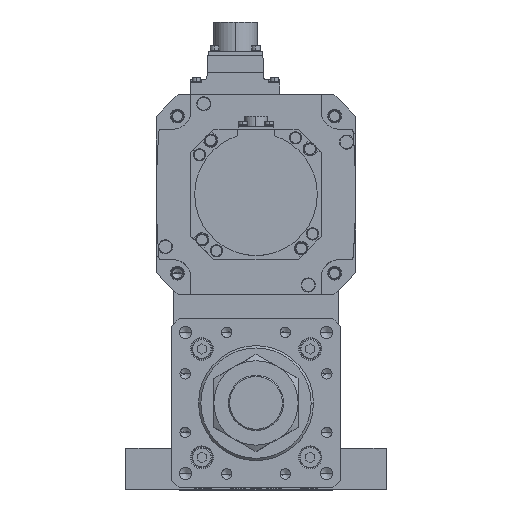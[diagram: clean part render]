
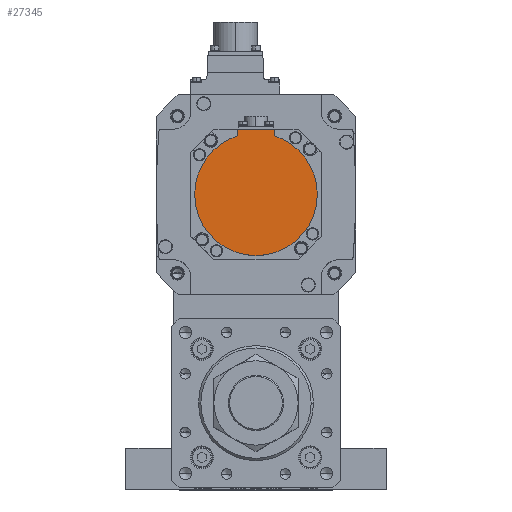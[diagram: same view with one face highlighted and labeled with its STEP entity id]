
A CAD part, top view. The second image highlights one B-rep face of the part: STEP entity #27345.
In plain terms, the highlighted planar face has unit normal (0, 0, 1) as drawn and (0, 0, -1) by its records, which use the part's own axes.
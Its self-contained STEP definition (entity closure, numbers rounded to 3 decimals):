
#1670 = AXIS2_PLACEMENT_3D ( 'NONE', #6625, #25818, #15071 ) ;
#2143 = DIRECTION ( 'NONE',  ( 1., 0., 0. ) ) ;
#2637 = DIRECTION ( 'NONE',  ( 0., 1., 0. ) ) ;
#2977 = AXIS2_PLACEMENT_3D ( 'NONE', #25241, #3410, #28108 ) ;
#3392 = LINE ( 'NONE', #24819, #21848 ) ;
#3410 = DIRECTION ( 'NONE',  ( 0., 0., 1. ) ) ;
#4860 = CIRCLE ( 'NONE', #1670, 40. ) ;
#5516 = CARTESIAN_POINT ( 'NONE',  ( -12., -40.329, -132.5 ) ) ;
#6625 = CARTESIAN_POINT ( 'NONE',  ( 0., 0., -132.5 ) ) ;
#7180 = VERTEX_POINT ( 'NONE', #30605 ) ;
#7652 = EDGE_CURVE ( 'NONE', #12358, #25597, #3392, .T. ) ;
#8490 = CARTESIAN_POINT ( 'NONE',  ( 0., 0., -132.5 ) ) ;
#9125 = EDGE_CURVE ( 'NONE', #13814, #24641, #28170, .T. ) ;
#9610 = AXIS2_PLACEMENT_3D ( 'NONE', #8490, #13960, #30199 ) ;
#11814 = PLANE ( 'NONE',  #2977 ) ;
#11872 = EDGE_CURVE ( 'NONE', #25597, #7180, #31813, .T. ) ;
#12309 = ORIENTED_EDGE ( 'NONE', *, *, #7652, .F. ) ;
#12358 = VERTEX_POINT ( 'NONE', #15977 ) ;
#12787 = ORIENTED_EDGE ( 'NONE', *, *, #21991, .F. ) ;
#13469 = DIRECTION ( 'NONE',  ( 0., 0., 1. ) ) ;
#13814 = VERTEX_POINT ( 'NONE', #32748 ) ;
#13960 = DIRECTION ( 'NONE',  ( 0., 0., 1. ) ) ;
#13993 = DIRECTION ( 'NONE',  ( 0., 1., 0. ) ) ;
#15071 = DIRECTION ( 'NONE',  ( 1., 0., 0. ) ) ;
#15977 = CARTESIAN_POINT ( 'NONE',  ( 12., -42.5, -132.5 ) ) ;
#18924 = CARTESIAN_POINT ( 'NONE',  ( 12., -38.158, -132.5 ) ) ;
#20919 = VECTOR ( 'NONE', #13993, 1000. ) ;
#21206 = EDGE_CURVE ( 'NONE', #33950, #24641, #4860, .T. ) ;
#21520 = CARTESIAN_POINT ( 'NONE',  ( -40., 0., -132.5 ) ) ;
#21593 = CARTESIAN_POINT ( 'NONE',  ( 0., 0., -132.5 ) ) ;
#21848 = VECTOR ( 'NONE', #2637, 1000. ) ;
#21991 = EDGE_CURVE ( 'NONE', #7180, #33950, #27094, .T. ) ;
#22312 = ORIENTED_EDGE ( 'NONE', *, *, #21206, .F. ) ;
#22871 = CARTESIAN_POINT ( 'NONE',  ( 0., -42.5, -132.5 ) ) ;
#22964 = ORIENTED_EDGE ( 'NONE', *, *, #25855, .T. ) ;
#24641 = VERTEX_POINT ( 'NONE', #25220 ) ;
#24819 = CARTESIAN_POINT ( 'NONE',  ( 12., -1.249, -132.5 ) ) ;
#25220 = CARTESIAN_POINT ( 'NONE',  ( -12., -38.158, -132.5 ) ) ;
#25241 = CARTESIAN_POINT ( 'NONE',  ( 0., -1.249, -132.5 ) ) ;
#25597 = VERTEX_POINT ( 'NONE', #18924 ) ;
#25818 = DIRECTION ( 'NONE',  ( 0., 0., 1. ) ) ;
#25855 = EDGE_CURVE ( 'NONE', #12358, #13814, #34936, .T. ) ;
#27094 = CIRCLE ( 'NONE', #28076, 40. ) ;
#27345 = ADVANCED_FACE ( 'NONE', ( #33626 ), #11814, .F. ) ;
#28076 = AXIS2_PLACEMENT_3D ( 'NONE', #21593, #13469, #2143 ) ;
#28108 = DIRECTION ( 'NONE',  ( 1., 0., 0. ) ) ;
#28170 = LINE ( 'NONE', #5516, #20919 ) ;
#30199 = DIRECTION ( 'NONE',  ( 1., 0., 0. ) ) ;
#30605 = CARTESIAN_POINT ( 'NONE',  ( 40., 0., -132.5 ) ) ;
#31227 = DIRECTION ( 'NONE',  ( -1., 0., 0. ) ) ;
#31813 = CIRCLE ( 'NONE', #9610, 40. ) ;
#32748 = CARTESIAN_POINT ( 'NONE',  ( -12., -42.5, -132.5 ) ) ;
#32840 = VECTOR ( 'NONE', #31227, 1000. ) ;
#33219 = EDGE_LOOP ( 'NONE', ( #34768, #22312, #12787, #35505, #12309, #22964 ) ) ;
#33626 = FACE_OUTER_BOUND ( 'NONE', #33219, .T. ) ;
#33950 = VERTEX_POINT ( 'NONE', #21520 ) ;
#34768 = ORIENTED_EDGE ( 'NONE', *, *, #9125, .T. ) ;
#34936 = LINE ( 'NONE', #22871, #32840 ) ;
#35505 = ORIENTED_EDGE ( 'NONE', *, *, #11872, .F. ) ;
